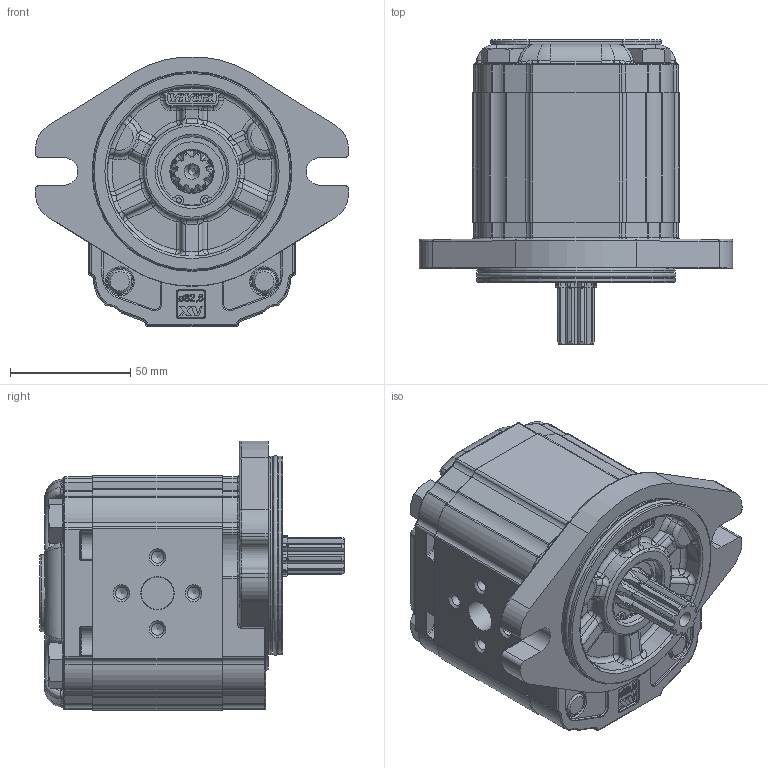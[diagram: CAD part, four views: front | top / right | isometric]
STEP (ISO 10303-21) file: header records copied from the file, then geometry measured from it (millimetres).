
FILE_DESCRIPTION(/* description */ ('Unknown'),/* implementation_level */ '2;1');
FILE_NAME(/* name */ 'X2M4531IOOE',/* time_stamp */ '2021-04-26T10:34:36+02:00',/* author */ ('Unknown'),/* organization */ ('Unknown'),/* preprocessor_version */ 'ST-DEVELOPER v16.7',/* originating_system */ 'Solid Edge',/* authorisation */ 'Unknown');
FILE_SCHEMA (('AUTOMOTIVE_DESIGN {1 0 10303 214 3 1 1}'));
Products named in the file (5): X2M4531IOOE; X2M31; 2I; X2OOH54; XM219-E
Assembly tree (4 placements, depth 2):
  X2M4531IOOE
    X2M31
    2I
    X2OOH54
    XM219-E
Bounding box: 130.38 x 126.7 x 112.3 mm (x, y, z)
Volume: 703913.7 mm3; surface area: 110413.8 mm2
Topology: 4 solids, 5 shells, 1576 faces, 3999 edges, 2497 vertices
Faces by surface type: plane 601, cylinder 442, bspline 210, torus 207, cone 90, sphere 26
Full cylindrical faces by diameter (mm): 2 x2, 4.917 x4, 5 x4, 11 x2, 11.445 x1, 11.5 x4, 13.5 x2, 16 x4, 17.42 x1, 18 x1, 20.595 x1, 23.332 x1, 25.834 x1, 28.5 x1, 28.56 x1, 28.57 x1, 28.8 x1, 30.4 x1, 79.6 x2, 82.5 x2
Entity records: 59622 total; most frequent: CARTESIAN_POINT 13001, ORIENTED_EDGE 7680, DIRECTION 7406, EDGE_CURVE 3840, AXIS2_PLACEMENT_3D 2748, VERTEX_POINT 2443, LINE 1910, VECTOR 1910
